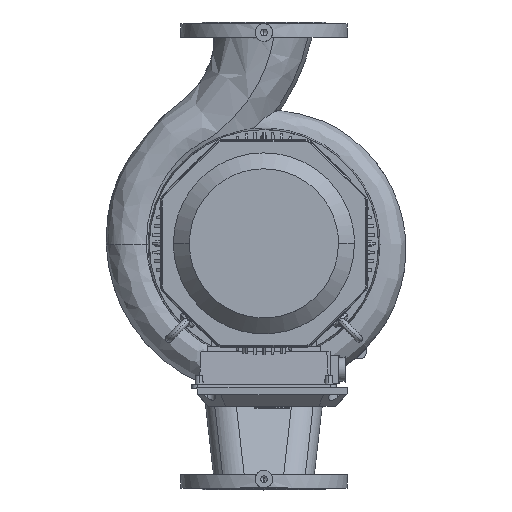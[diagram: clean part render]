
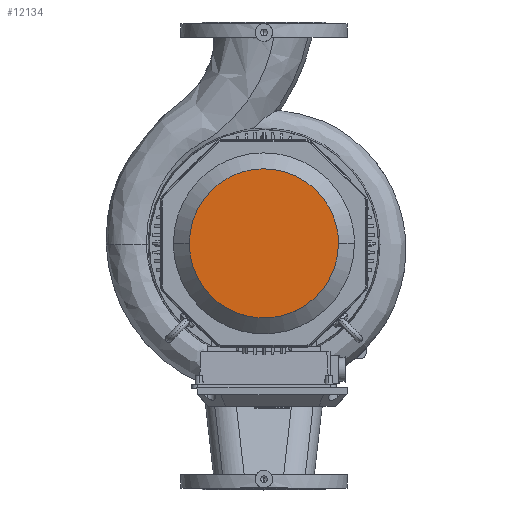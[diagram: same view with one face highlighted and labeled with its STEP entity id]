
A CAD part, top view. The second image highlights one B-rep face of the part: STEP entity #12134.
In plain terms, the highlighted free-form (B-spline) face has degree [1, 1] with [2, 2] control points.
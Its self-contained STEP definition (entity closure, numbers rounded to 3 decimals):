
#12134=ADVANCED_FACE('     F83',(#24400),#24401,.T.);
#12310=EDGE_CURVE('    E195',#24666,#24667,#24668,.T.);
#12314=EDGE_CURVE('    E195',#24667,#24666,#24672,.T.);
#24400=FACE_OUTER_BOUND('',#57195,.T.);
#24401=B_SPLINE_SURFACE_WITH_KNOTS('',1,1,((#57196,#57197),(#57198,#57199)),.UNSPECIFIED.,.F.,.F.,.F.,(2,2),(2,2),(0.044,0.955),(0.039,0.96),.UNSPECIFIED.);
#24666=VERTEX_POINT('',#58751);
#24667=VERTEX_POINT('',#58752);
#24668=(B_SPLINE_CURVE(2,(#58754,#58755,#58756,#58757,#58758),.UNSPECIFIED.,.F.,.F.)B_SPLINE_CURVE_WITH_KNOTS((3,2,3),(62.047,82.73,124.095),.UNSPECIFIED.)RATIONAL_B_SPLINE_CURVE((0.75,0.75,1.0,0.5,1.0))BOUNDED_CURVE()REPRESENTATION_ITEM('')GEOMETRIC_REPRESENTATION_ITEM()CURVE());
#24672=(B_SPLINE_CURVE(2,(#58772,#58773,#58774,#58775,#58776),.UNSPECIFIED.,.F.,.F.)B_SPLINE_CURVE_WITH_KNOTS((3,2,3),(0.0,41.365,62.047),.UNSPECIFIED.)RATIONAL_B_SPLINE_CURVE((1.0,0.5,1.0,0.75,0.75))BOUNDED_CURVE()REPRESENTATION_ITEM('')GEOMETRIC_REPRESENTATION_ITEM()CURVE());
#57195=EDGE_LOOP('',(#76568,#76569));
#57196=CARTESIAN_POINT('',(-148.051,129.131,-177.0));
#57197=CARTESIAN_POINT('',(-148.051,-126.525,-177.0));
#57198=CARTESIAN_POINT('',(107.447,129.131,-177.0));
#57199=CARTESIAN_POINT('',(107.447,-126.525,-177.0));
#58751=CARTESIAN_POINT('',(-147.622,1.096,-177.0));
#58752=CARTESIAN_POINT('',(107.438,1.096,-177.0));
#58754=CARTESIAN_POINT('',(-147.622,1.096,-177.0));
#58755=CARTESIAN_POINT('',(-147.622,-72.533,-177.0));
#58756=CARTESIAN_POINT('',(-83.857,-109.348,-177.0));
#58757=CARTESIAN_POINT('',(107.438,-219.792,-177.0));
#58758=CARTESIAN_POINT('',(107.438,1.096,-177.0));
#58772=CARTESIAN_POINT('',(107.438,1.096,-177.0));
#58773=CARTESIAN_POINT('',(107.438,221.985,-177.0));
#58774=CARTESIAN_POINT('',(-83.857,111.541,-177.0));
#58775=CARTESIAN_POINT('',(-147.622,74.726,-177.0));
#58776=CARTESIAN_POINT('',(-147.622,1.096,-177.0));
#76568=ORIENTED_EDGE('',*,*,#12314,.F.);
#76569=ORIENTED_EDGE('',*,*,#12310,.F.);
